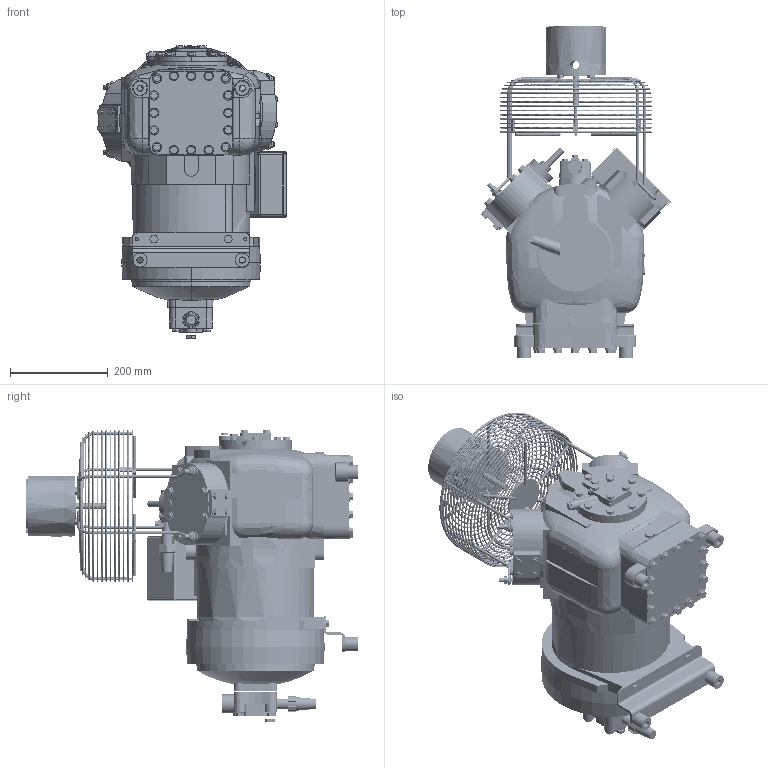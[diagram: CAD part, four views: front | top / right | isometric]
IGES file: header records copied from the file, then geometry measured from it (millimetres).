
Start section:  PTC IGES file: 06d41ec9f_sv_4fn_sw_1.igs
Global section: file name: 06d41ec9f_sv_4fn_sw_1.igs; native system: Pro/ENGINEER by Parametric Technology Corporation; preprocessor: 2001280; author: manikandanm; organization: Unknown; date: 040123.004100; units: inch
Bounding box: 389.42 x 680.17 x 600.1 mm (x, y, z)
Surface area: 1616647.7 mm2 (no closed solid volume)
Topology: 0 solids, 0 shells, 1541 faces, 7881 edges, 7867 vertices
Faces by surface type: bspline 912, revolution 629
